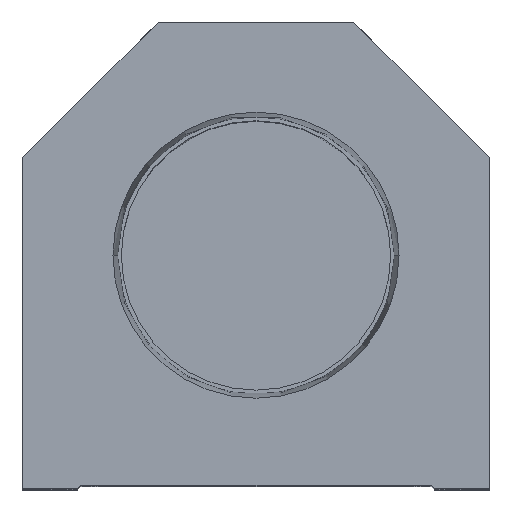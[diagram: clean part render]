
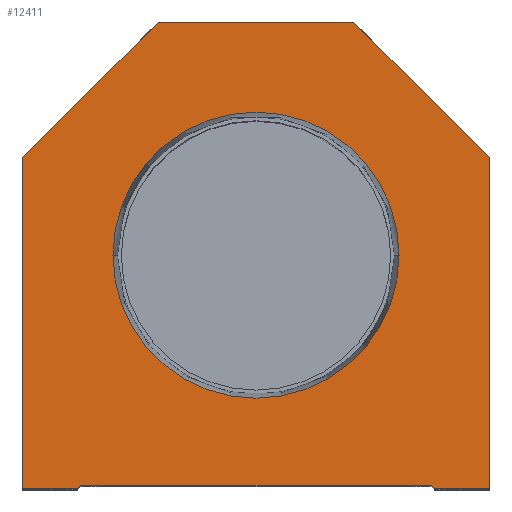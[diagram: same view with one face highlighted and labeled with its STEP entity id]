
A CAD part, top view. The second image highlights one B-rep face of the part: STEP entity #12411.
In plain terms, the highlighted planar face has unit normal (0, 0, 1).
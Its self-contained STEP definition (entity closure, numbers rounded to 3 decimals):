
#91 = CIRCLE ( 'NONE', #2424, 23.374 ) ;
#158 = LINE ( 'NONE', #13935, #10195 ) ;
#221 = CARTESIAN_POINT ( 'NONE',  ( -38.1, 54.1, 0. ) ) ;
#239 = ORIENTED_EDGE ( 'NONE', *, *, #2269, .T. ) ;
#469 = EDGE_CURVE ( 'NONE', #11081, #2517, #6528, .T. ) ;
#623 = VECTOR ( 'NONE', #4959, 1000. ) ;
#661 = EDGE_CURVE ( 'NONE', #2517, #6757, #14122, .T. ) ;
#936 = CARTESIAN_POINT ( 'NONE',  ( 0., 38.1, 0. ) ) ;
#1274 = VERTEX_POINT ( 'NONE', #9861 ) ;
#1527 = DIRECTION ( 'NONE',  ( 0., 0., 1. ) ) ;
#1610 = DIRECTION ( 'NONE',  ( 1., 0., 0. ) ) ;
#1819 = DIRECTION ( 'NONE',  ( -1., 0., 0. ) ) ;
#1882 = LINE ( 'NONE', #6004, #9481 ) ;
#1993 = CARTESIAN_POINT ( 'NONE',  ( 16., 76.2, 0. ) ) ;
#2204 = CARTESIAN_POINT ( 'NONE',  ( -28.6, 0., 0. ) ) ;
#2261 = PLANE ( 'NONE',  #17111 ) ;
#2269 = EDGE_CURVE ( 'NONE', #13660, #7415, #158, .T. ) ;
#2424 = AXIS2_PLACEMENT_3D ( 'NONE', #936, #3512, #4879 ) ;
#2517 = VERTEX_POINT ( 'NONE', #4984 ) ;
#2590 = CARTESIAN_POINT ( 'NONE',  ( 38.1, 54.1, 0. ) ) ;
#2886 = VECTOR ( 'NONE', #16253, 1000. ) ;
#2982 = LINE ( 'NONE', #221, #15895 ) ;
#3070 = DIRECTION ( 'NONE',  ( -0.707, -0.707, 0. ) ) ;
#3178 = CARTESIAN_POINT ( 'NONE',  ( -38.1, 54.1, 0. ) ) ;
#3298 = CARTESIAN_POINT ( 'NONE',  ( -29.1, 0., 0. ) ) ;
#3512 = DIRECTION ( 'NONE',  ( 0., 0., 1. ) ) ;
#3953 = ORIENTED_EDGE ( 'NONE', *, *, #11097, .T. ) ;
#3989 = CARTESIAN_POINT ( 'NONE',  ( 0., 38.1, 0. ) ) ;
#4029 = CARTESIAN_POINT ( 'NONE',  ( 38.1, 54.1, 0. ) ) ;
#4200 = ORIENTED_EDGE ( 'NONE', *, *, #661, .T. ) ;
#4530 = ORIENTED_EDGE ( 'NONE', *, *, #10337, .T. ) ;
#4837 = FACE_BOUND ( 'NONE', #11453, .T. ) ;
#4839 = EDGE_CURVE ( 'NONE', #11802, #11123, #6660, .T. ) ;
#4879 = DIRECTION ( 'NONE',  ( 1., 0., 0. ) ) ;
#4959 = DIRECTION ( 'NONE',  ( 1., 0., 0. ) ) ;
#4984 = CARTESIAN_POINT ( 'NONE',  ( -28.6, 0.5, 0. ) ) ;
#5990 = LINE ( 'NONE', #7163, #15576 ) ;
#6004 = CARTESIAN_POINT ( 'NONE',  ( -38.1, 0., 0. ) ) ;
#6107 = FACE_OUTER_BOUND ( 'NONE', #9233, .T. ) ;
#6339 = DIRECTION ( 'NONE',  ( 0., -1., 0. ) ) ;
#6453 = CARTESIAN_POINT ( 'NONE',  ( 0., 0., 0. ) ) ;
#6528 = LINE ( 'NONE', #17644, #10254 ) ;
#6660 = LINE ( 'NONE', #4029, #2886 ) ;
#6757 = VERTEX_POINT ( 'NONE', #9448 ) ;
#7163 = CARTESIAN_POINT ( 'NONE',  ( 14.55, 14.55, 0. ) ) ;
#7207 = VERTEX_POINT ( 'NONE', #12848 ) ;
#7415 = VERTEX_POINT ( 'NONE', #16907 ) ;
#7993 = LINE ( 'NONE', #12137, #8350 ) ;
#8168 = CARTESIAN_POINT ( 'NONE',  ( 23.374, 38.1, 0. ) ) ;
#8269 = VERTEX_POINT ( 'NONE', #8168 ) ;
#8350 = VECTOR ( 'NONE', #1819, 1000. ) ;
#8383 = LINE ( 'NONE', #12697, #17405 ) ;
#8464 = DIRECTION ( 'NONE',  ( 1., 0., 0. ) ) ;
#8641 = ORIENTED_EDGE ( 'NONE', *, *, #10528, .T. ) ;
#9233 = EDGE_LOOP ( 'NONE', ( #16257, #10424, #4200, #14688, #239, #10428, #12585, #3953, #8641, #4530 ) ) ;
#9318 = CARTESIAN_POINT ( 'NONE',  ( 29.1, 0., 0. ) ) ;
#9347 = VERTEX_POINT ( 'NONE', #16542 ) ;
#9448 = CARTESIAN_POINT ( 'NONE',  ( 28.6, 0.5, 0. ) ) ;
#9481 = VECTOR ( 'NONE', #6339, 1000. ) ;
#9861 = CARTESIAN_POINT ( 'NONE',  ( -23.374, 38.1, 0. ) ) ;
#10195 = VECTOR ( 'NONE', #14033, 1000. ) ;
#10254 = VECTOR ( 'NONE', #10674, 1000. ) ;
#10337 = EDGE_CURVE ( 'NONE', #10370, #9347, #1882, .T. ) ;
#10370 = VERTEX_POINT ( 'NONE', #3178 ) ;
#10413 = DIRECTION ( 'NONE',  ( 1., 0., 0. ) ) ;
#10424 = ORIENTED_EDGE ( 'NONE', *, *, #469, .T. ) ;
#10428 = ORIENTED_EDGE ( 'NONE', *, *, #12527, .T. ) ;
#10500 = DIRECTION ( 'NONE',  ( 0., 0., 1. ) ) ;
#10528 = EDGE_CURVE ( 'NONE', #7207, #10370, #2982, .T. ) ;
#10674 = DIRECTION ( 'NONE',  ( 0.707, 0.707, 0. ) ) ;
#11081 = VERTEX_POINT ( 'NONE', #3298 ) ;
#11097 = EDGE_CURVE ( 'NONE', #11123, #7207, #7993, .T. ) ;
#11123 = VERTEX_POINT ( 'NONE', #1993 ) ;
#11453 = EDGE_LOOP ( 'NONE', ( #16556, #15378 ) ) ;
#11585 = DIRECTION ( 'NONE',  ( 0.707, -0.707, 0. ) ) ;
#11802 = VERTEX_POINT ( 'NONE', #2590 ) ;
#12137 = CARTESIAN_POINT ( 'NONE',  ( 16., 76.2, 0. ) ) ;
#12411 = ADVANCED_FACE ( 'NONE', ( #4837, #6107 ), #2261, .T. ) ;
#12527 = EDGE_CURVE ( 'NONE', #7415, #11802, #8383, .T. ) ;
#12585 = ORIENTED_EDGE ( 'NONE', *, *, #4839, .T. ) ;
#12697 = CARTESIAN_POINT ( 'NONE',  ( 38.1, 0., 0. ) ) ;
#12848 = CARTESIAN_POINT ( 'NONE',  ( -16., 76.2, 0. ) ) ;
#13155 = VECTOR ( 'NONE', #1610, 1000. ) ;
#13214 = EDGE_CURVE ( 'NONE', #1274, #8269, #13782, .T. ) ;
#13292 = EDGE_CURVE ( 'NONE', #6757, #13660, #5990, .T. ) ;
#13660 = VERTEX_POINT ( 'NONE', #9318 ) ;
#13782 = CIRCLE ( 'NONE', #17258, 23.374 ) ;
#13935 = CARTESIAN_POINT ( 'NONE',  ( 28.6, 0., 0. ) ) ;
#14033 = DIRECTION ( 'NONE',  ( 1., 0., 0. ) ) ;
#14122 = LINE ( 'NONE', #15308, #13155 ) ;
#14313 = DIRECTION ( 'NONE',  ( 0., 1., 0. ) ) ;
#14665 = EDGE_CURVE ( 'NONE', #9347, #11081, #17433, .T. ) ;
#14688 = ORIENTED_EDGE ( 'NONE', *, *, #13292, .T. ) ;
#15308 = CARTESIAN_POINT ( 'NONE',  ( -28.6, 0.5, 0. ) ) ;
#15378 = ORIENTED_EDGE ( 'NONE', *, *, #13214, .F. ) ;
#15576 = VECTOR ( 'NONE', #11585, 1000. ) ;
#15895 = VECTOR ( 'NONE', #3070, 1000. ) ;
#16253 = DIRECTION ( 'NONE',  ( -0.707, 0.707, 0. ) ) ;
#16257 = ORIENTED_EDGE ( 'NONE', *, *, #14665, .T. ) ;
#16542 = CARTESIAN_POINT ( 'NONE',  ( -38.1, 0., 0. ) ) ;
#16556 = ORIENTED_EDGE ( 'NONE', *, *, #17155, .F. ) ;
#16907 = CARTESIAN_POINT ( 'NONE',  ( 38.1, 0., 0. ) ) ;
#17111 = AXIS2_PLACEMENT_3D ( 'NONE', #6453, #10500, #10413 ) ;
#17155 = EDGE_CURVE ( 'NONE', #8269, #1274, #91, .T. ) ;
#17258 = AXIS2_PLACEMENT_3D ( 'NONE', #3989, #1527, #8464 ) ;
#17405 = VECTOR ( 'NONE', #14313, 1000. ) ;
#17433 = LINE ( 'NONE', #2204, #623 ) ;
#17644 = CARTESIAN_POINT ( 'NONE',  ( -14.55, 14.55, 0. ) ) ;
